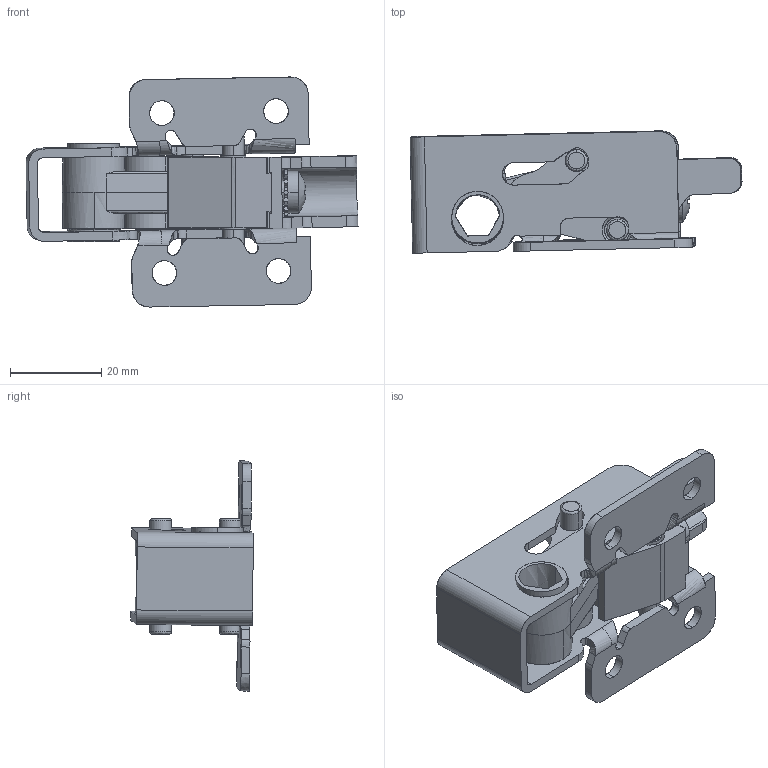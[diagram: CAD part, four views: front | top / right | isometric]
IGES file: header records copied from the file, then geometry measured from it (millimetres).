
Start section: SolidWorks IGES file using analytic representation for surfaces
Global section: file name: D:\尚坤工业图纸\SK1--门锁系列\SK1-100\SK1-100.IGS; native system: SolidWorks 2015; preprocessor: SolidWorks 2015; author: admin; date: 181101.105635; units: millimetre
Bounding box: 72.68 x 26.8 x 50.37 mm (x, y, z)
Surface area: 19143.3 mm2 (no closed solid volume)
Topology: 0 solids, 0 shells, 703 faces, 6955 edges, 6953 vertices
Faces by surface type: bspline 490, revolution 213
